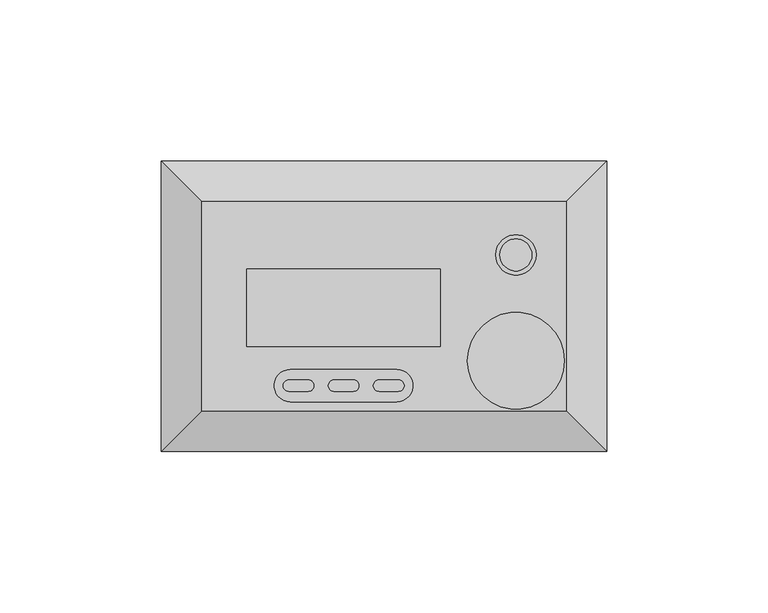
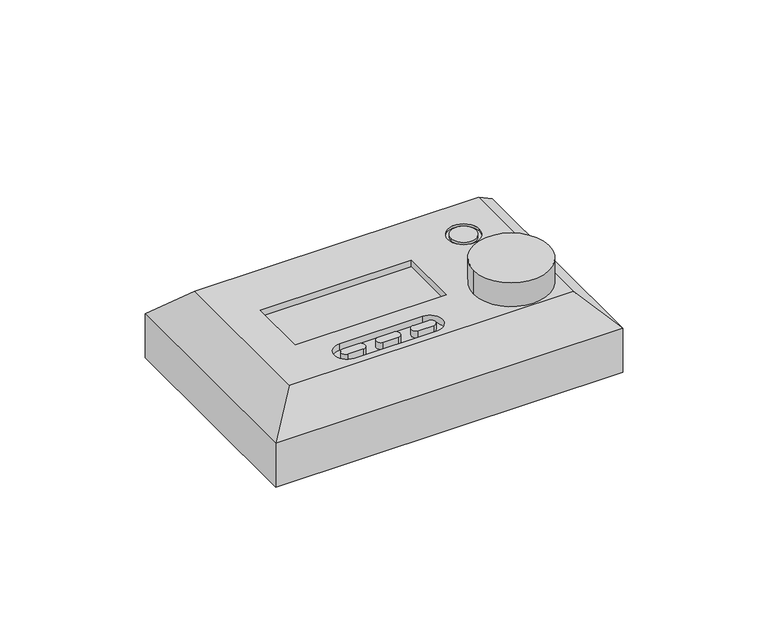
"""IFC4 building model written with IfcOpenShell, lengths in millimetres: proxy geometry, 400_5-_KOMF_optimizer_bediening : Optimizer bediening."""

import ifcopenshell
import ifcopenshell.guid

model = None  # the IFC model being written
_history = None  # IfcOwnerHistory: only IFC2X3 demands one
_inside = {}  # id of a spatial element -> (the spatial element, [elements in it])
_under = {}  # id of a project, library or spatial element -> (it, [spatial elements below it])
_declared = {}  # id of a project -> (the project, [libraries it declares])
_typed = {}  # id of a type object -> (the type object, [elements of that type])
_made_of = {}  # id of a material, layer set ... -> (it, [elements and type objects made of it])


def new_model(schema):
    """Start an empty IFC model of exactly this schema.

    Asked for "IFC4X3", IfcOpenShell would pick the latest addendum, in which some entities
    have other attributes; the version numbers below select the first issue.
    IFC2X3 requires an IfcOwnerHistory on every rooted entity: one is made here for all.
    """
    global model, _history
    if schema == "IFC4X3":
        model = ifcopenshell.file(schema_version=(4, 3, 0, 0))
    else:
        model = ifcopenshell.file(schema=schema)
    _inside.clear()
    _under.clear()
    _declared.clear()
    _typed.clear()
    _made_of.clear()
    _history = None
    if model.schema == "IFC2X3":
        org = make("IfcOrganization", Name="unknown")
        user = make(
            "IfcPersonAndOrganization",
            ThePerson=make("IfcPerson", FamilyName="unknown"),
            TheOrganization=org,
        )
        app = make(
            "IfcApplication",
            ApplicationDeveloper=org,
            Version="unknown",
            ApplicationFullName="unknown",
            ApplicationIdentifier="unknown",
        )
        _history = make(
            "IfcOwnerHistory",
            OwningUser=user,
            OwningApplication=app,
            ChangeAction="ADDED",
            CreationDate=0,
        )
    return model


def make(cls, **values):
    """One entity of the class cls with the attributes given. An attribute that is None is left unset."""
    return model.create_entity(
        cls, **{name: value for name, value in values.items() if value is not None}
    )


def rooted(cls, **values):
    """An entity with a GlobalId (a new one), such as an element, a storey or a relation."""
    return make(cls, GlobalId=ifcopenshell.guid.new(), OwnerHistory=_history, **values)


def si_unit(unit_type, name, prefix=None):
    """IfcSIUnit, for example si_unit("LENGTHUNIT", "METRE", prefix="MILLI")."""
    return make("IfcSIUnit", UnitType=unit_type, Prefix=prefix, Name=name)


def assignment(units):
    """IfcUnitAssignment: the units of a project."""
    return None if units is None else make("IfcUnitAssignment", Units=units)


def point(xyz):
    """IfcCartesianPoint."""
    return None if xyz is None else make("IfcCartesianPoint", Coordinates=xyz)


def direction(xyz):
    """IfcDirection."""
    return None if xyz is None else make("IfcDirection", DirectionRatios=xyz)


def frame(location, z_axis=None, x_axis=None):
    """IfcAxis2Placement3D, a coordinate frame: its origin and axes. An axis left out is left unset."""
    return make(
        "IfcAxis2Placement3D",
        Location=point(location),
        Axis=direction(z_axis),
        RefDirection=direction(x_axis),
    )


def frame_2d(location, x_axis=None):
    """IfcAxis2Placement2D, a coordinate frame in the plane: its origin and x axis."""
    return make(
        "IfcAxis2Placement2D", Location=point(location), RefDirection=direction(x_axis)
    )


def origin():
    """The frame at (0, 0, 0) with its axes left unset."""
    return frame((0.0, 0.0, 0.0))


def place(relative_to, where):
    """IfcLocalPlacement: puts the frame where relative to a parent placement (None: the world)."""
    return make(
        "IfcLocalPlacement", PlacementRelTo=relative_to, RelativePlacement=where
    )


def context(
    kind, dimensions, precision=None, world=None, true_north=None, identifier=None
):
    """IfcGeometricRepresentationContext, for example the 3D "Model" context."""
    return make(
        "IfcGeometricRepresentationContext",
        ContextIdentifier=identifier,
        ContextType=kind,
        CoordinateSpaceDimension=dimensions,
        Precision=precision,
        WorldCoordinateSystem=world,
        TrueNorth=true_north,
    )


def project(units=None, contexts=None):
    """IfcProject with its units and contexts."""
    return rooted(
        "IfcProject",
        Name="project",
        RepresentationContexts=contexts,
        UnitsInContext=assignment(units),
    )


def spatial(cls, under=None, at=None, **own):
    """A site, building, storey or space (cls), placed at a placement, below another one or the project."""
    s = rooted(cls, ObjectPlacement=at, **own)
    if under is not None:
        _under.setdefault(under.id(), (under, []))[1].append(s)
    return s


def polyline(points):
    """IfcPolyline through the points."""
    return make("IfcPolyline", Points=[point(p) for p in points])


def circle_curve(where, radius):
    """IfcCircle in the frame where."""
    return make("IfcCircle", Position=where, Radius=radius)


def trimmed(basis, trim1, trim2, sense, master):
    """IfcTrimmedCurve: the piece of a basis curve between two trims."""
    return make(
        "IfcTrimmedCurve",
        BasisCurve=basis,
        Trim1=trim1,
        Trim2=trim2,
        SenseAgreement=sense,
        MasterRepresentation=master,
    )


def segment(curve, same_sense, transition):
    """IfcCompositeCurveSegment."""
    return make(
        "IfcCompositeCurveSegment",
        Transition=transition,
        SameSense=same_sense,
        ParentCurve=curve,
    )


def composite_curve(segments, self_intersect=None):
    """IfcCompositeCurve: segments joined end to end."""
    return make("IfcCompositeCurve", Segments=segments, SelfIntersect=self_intersect)


def outline(outer, holes=None, kind="AREA"):
    """IfcArbitraryClosedProfileDef: a profile drawn as a closed curve; with holes, ...WithVoids."""
    if holes is None:
        return make("IfcArbitraryClosedProfileDef", ProfileType=kind, OuterCurve=outer)
    return make(
        "IfcArbitraryProfileDefWithVoids",
        ProfileType=kind,
        OuterCurve=outer,
        InnerCurves=holes,
    )


def extrude(swept, where, along, depth):
    """IfcExtrudedAreaSolid: the profile swept, set in the frame where, extruded along a direction by depth."""
    return make(
        "IfcExtrudedAreaSolid",
        SweptArea=swept,
        Position=where,
        ExtrudedDirection=direction(along),
        Depth=depth,
    )


def shape(context_of_items, identifier, shape_type, items):
    """IfcShapeRepresentation: the items that make up one representation, for example the "Body"."""
    return make(
        "IfcShapeRepresentation",
        ContextOfItems=context_of_items,
        RepresentationIdentifier=identifier,
        RepresentationType=shape_type,
        Items=items,
    )


def source(mapping_origin, context_of_items, identifier, shape_type, items):
    """IfcRepresentationMap: a shape defined once, which mapped items show again and again."""
    return make(
        "IfcRepresentationMap",
        MappingOrigin=mapping_origin,
        MappedRepresentation=shape(context_of_items, identifier, shape_type, items),
    )


def transform(
    local_origin,
    x_axis=None,
    y_axis=None,
    z_axis=None,
    scale=None,
    scale2=None,
    scale3=None,
    uniform=True,
):
    """IfcCartesianTransformationOperator3D, or its non-uniform kind. x_axis, y_axis, z_axis: its Axis1, 2, 3."""
    if uniform:
        return make(
            "IfcCartesianTransformationOperator3D",
            Axis1=direction(x_axis),
            Axis2=direction(y_axis),
            LocalOrigin=point(local_origin),
            Scale=scale,
            Axis3=direction(z_axis),
        )
    return make(
        "IfcCartesianTransformationOperator3DnonUniform",
        Axis1=direction(x_axis),
        Axis2=direction(y_axis),
        LocalOrigin=point(local_origin),
        Scale=scale,
        Axis3=direction(z_axis),
        Scale2=scale2,
        Scale3=scale3,
    )


def mapped(mapping_source, mapping_target):
    """IfcMappedItem: shows the shape of a source again, moved by a transform."""
    return make(
        "IfcMappedItem", MappingSource=mapping_source, MappingTarget=mapping_target
    )


def made_of(thing, what):
    """Note that an element or type object is made of a material, layer set ...; save() writes the relation."""
    if what is not None:
        _made_of.setdefault(what.id(), (what, []))[1].append(thing)
    return thing


def element(
    cls,
    number,
    at=None,
    inside=None,
    cuts=None,
    type_object=None,
    material=None,
    context=None,
    identifier="Body",
    shape_type=None,
    held_by="IfcProductDefinitionShape",
    body=None,
    shapes=None,
    **own,
):
    """One element of the class cls, such as IfcWall. Its Tag is "e" and its number.

    at: its placement. inside: the storey or other place that contains it. cuts: it is an
    opening in that element (IfcRelVoidsElement). A single representation is given by context,
    identifier, shape_type and body (its items); several are given by shapes. held_by: the class
    of the entity that holds the representations. save() writes the other relations.
    """
    e = rooted(cls, Tag="e%d" % number, ObjectPlacement=at, **own)
    if body is not None:
        shapes = [shape(context, identifier, shape_type, body)]
    if shapes is not None:
        e.Representation = make(held_by, Representations=shapes)
    if inside is not None:
        _inside.setdefault(inside.id(), (inside, []))[1].append(e)
    if cuts is not None:
        rooted(
            "IfcRelVoidsElement", RelatingBuildingElement=cuts, RelatedOpeningElement=e
        )
    if type_object is not None:
        _typed.setdefault(type_object.id(), (type_object, []))[1].append(e)
    return made_of(e, material)


def aggregate(whole, parts):
    """IfcRelAggregates: a whole, such as a stair, and the parts it consists of."""
    return rooted("IfcRelAggregates", RelatingObject=whole, RelatedObjects=parts)


def save(model, path):
    """Write the relations noted so far, then the file.

    IfcRelAggregates (storeys below a building ...), IfcRelContainedInSpatialStructure (elements
    in a storey), IfcRelDefinesByType, IfcRelAssociatesMaterial and IfcRelDeclares: one each for
    every whole, place, type object, material and project.
    """
    for whole, parts in _under.values():
        aggregate(whole, parts)
    for where, things in _inside.values():
        rooted(
            "IfcRelContainedInSpatialStructure",
            RelatedElements=things,
            RelatingStructure=where,
        )
    for kind, things in _typed.values():
        rooted("IfcRelDefinesByType", RelatedObjects=things, RelatingType=kind)
    for what, things in _made_of.values():
        rooted("IfcRelAssociatesMaterial", RelatedObjects=things, RelatingMaterial=what)
    for by, libraries in _declared.values():
        rooted("IfcRelDeclares", RelatingContext=by, RelatedDefinitions=libraries)
    model.write(path)


def plane_surface(at):
    """IfcPlane: the flat surface through the origin of the frame at, square to its z axis."""
    return make("IfcPlane", Position=at)


def revolved_surface(curve, axis_point, axis_direction):
    """IfcSurfaceOfRevolution: the curve turned about the line through axis_point along axis_direction."""
    return make(
        "IfcSurfaceOfRevolution",
        SweptCurve=make("IfcArbitraryOpenProfileDef", ProfileType="CURVE", Curve=curve),
        AxisPosition=make("IfcAxis1Placement", Location=point(axis_point), Axis=direction(axis_direction)),
    )


def advanced_brep(points, edges, surfaces, faces):
    """IfcAdvancedBrep: a solid bounded by faces that lie on surfaces and meet in shared edges.

    An edge is (start, end): straight between two places in points (the first is 0);
    or (start, end, curve); or (start, end, curve, False) where it runs against its curve.
    A face is (place in surfaces, loops), or (place, loops, False) where it looks against
    its surface's normal. A loop lists edges by number (the first is 1), with a minus sign
    where the edge is run from its end to its start. The first loop is the outer one.
    """
    corners = [point(p) for p in points]
    vertices = [make("IfcVertexPoint", VertexGeometry=c) for c in corners]
    made = []
    for start, end, *more in edges:
        made.append(
            make(
                "IfcEdgeCurve",
                EdgeStart=vertices[start],
                EdgeEnd=vertices[end],
                EdgeGeometry=more[0] if more else make("IfcPolyline", Points=[corners[start], corners[end]]),
                SameSense=more[1] if len(more) > 1 else True,
            )
        )
    hull = []
    for where, loops, *sense in faces:
        bounds = []
        for j, loop in enumerate(loops):
            ring = [make("IfcOrientedEdge", EdgeElement=made[abs(k) - 1], Orientation=k > 0) for k in loop]
            bounds.append(
                make(
                    "IfcFaceOuterBound" if j == 0 else "IfcFaceBound",
                    Bound=make("IfcEdgeLoop", EdgeList=ring),
                    Orientation=True,
                )
            )
        hull.append(make("IfcAdvancedFace", Bounds=bounds, FaceSurface=surfaces[where], SameSense=sense[0] if sense else True))
    return make("IfcAdvancedBrep", Outer=make("IfcClosedShell", CfsFaces=hull))


def electrical_fixtures_cdb00edd(model_context):
    return source(origin(), model_context, "Body", "SolidModel", [
        extrude(outline(composite_curve([segment(trimmed(circle_curve(frame_2d((109.875, 60.9417982)), 4.95), [point((104.925, 60.9417982))], [point((114.825, 60.9417982))], False, "CARTESIAN"), True, "CONTINUOUS"), segment(trimmed(circle_curve(frame_2d((109.875, 60.9417982)), 4.95), [point((114.825, 60.9417982))], [point((104.925, 60.9417982))], False, "CARTESIAN"), True, "CONTINUOUS")], self_intersect=False)), frame((0.0, 0.0, 30.0), z_axis=(0.0, 0.0, 1.0), x_axis=(1.0, 0.0, 0.0)), (0.0, 0.0, 1.0), 1.0),
        extrude(outline(composite_curve([segment(trimmed(circle_curve(frame_2d((109.875, 28.125)), 15.0), [point((94.875, 28.125))], [point((124.875, 28.125))], False, "CARTESIAN"), True, "CONTINUOUS"), segment(trimmed(circle_curve(frame_2d((109.875, 28.125)), 15.0), [point((124.875, 28.125))], [point((94.875, 28.125))], False, "CARTESIAN"), True, "CONTINUOUS")], self_intersect=False)), frame((0.0, 0.0, 31.0), z_axis=(0.0, 0.0, 1.0), x_axis=(1.0, 0.0, 0.0)), (0.0, 0.0, 1.0), 10.0),
        extrude(outline(polyline([(86.5, 56.5), (86.5, 32.5), (26.5, 32.5), (26.5, 56.5), (86.5, 56.5)])), frame((0.0, 0.0, 24.701186), z_axis=(0.0, 0.0, 1.0), x_axis=(1.0, 0.0, 0.0)), (0.0, 0.0, 1.0), 3.465557),
        extrude(outline(composite_curve([segment(polyline([(73.4803008, 18.6503733), (67.4803008, 18.6503733)]), True, "CONTINUOUS"), segment(trimmed(circle_curve(frame_2d((67.4803008, 20.4003733)), 1.75), [point((67.4803008, 18.6503733))], [point((67.4803008, 22.1503733))], False, "CARTESIAN"), True, "CONTINUOUS"), segment(polyline([(67.4803008, 22.1503733), (73.4803008, 22.1503733)]), True, "CONTINUOUS"), segment(trimmed(circle_curve(frame_2d((73.4803008, 20.4003733)), 1.75), [point((73.4803008, 22.1503733))], [point((73.4803008, 18.6503733))], False, "CARTESIAN"), True, "CONTINUOUS")], self_intersect=False)), frame((0.0, 0.0, 28.166743), z_axis=(0.0, 0.0, 1.0), x_axis=(1.0, 0.0, 0.0)), (0.0, 0.0, 1.0), 2.833257),
        extrude(outline(composite_curve([segment(trimmed(circle_curve(frame_2d((39.5196992, 20.4003733)), 1.75), [point((39.5196992, 18.6503733))], [point((39.5196992, 22.1503733))], False, "CARTESIAN"), True, "CONTINUOUS"), segment(polyline([(39.5196992, 22.1503733), (45.5196992, 22.1503733)]), True, "CONTINUOUS"), segment(trimmed(circle_curve(frame_2d((45.5196992, 20.4003733)), 1.75), [point((45.5196992, 22.1503733))], [point((45.5196992, 18.6503733))], False, "CARTESIAN"), True, "CONTINUOUS"), segment(polyline([(45.5196992, 18.6503733), (39.5196992, 18.6503733)]), True, "CONTINUOUS")], self_intersect=False)), frame((0.0, 0.0, 28.166743), z_axis=(0.0, 0.0, 1.0), x_axis=(1.0, 0.0, 0.0)), (0.0, 0.0, 1.0), 2.833257),
        extrude(outline(composite_curve([segment(trimmed(circle_curve(frame_2d((53.5, 20.4003733)), 1.75), [point((53.5, 18.6503733))], [point((53.5, 22.1503733))], False, "CARTESIAN"), True, "CONTINUOUS"), segment(polyline([(53.5, 22.1503733), (59.5, 22.1503733)]), True, "CONTINUOUS"), segment(trimmed(circle_curve(frame_2d((59.5, 20.4003733)), 1.75), [point((59.5, 22.1503733))], [point((59.5, 18.6503733))], False, "CARTESIAN"), True, "CONTINUOUS"), segment(polyline([(59.5, 18.6503733), (53.5, 18.6503733)]), True, "CONTINUOUS")], self_intersect=False)), frame((0.0, 0.0, 28.166743), z_axis=(0.0, 0.0, 1.0), x_axis=(1.0, 0.0, 0.0)), (0.0, 0.0, 1.0), 2.833257),
        advanced_brep(
        [(138.0, 0.0, 0.0), (138.0, 90.0, 0.0), (138.0, 90.0, 18.5), (138.0, 0.0, 18.5), (0.0, 90.0, 0.0), (0.0, 0.0, 0.0), (0.0, 0.0, 18.5), (0.0, 90.0, 18.5), (12.5, 77.5, 31.0), (12.5, 12.5, 31.0), (125.5, 12.5, 31.0), (125.5, 77.5, 31.0), (73.0, 15.4003733, 31.0), (40.0, 15.4003733, 31.0), (40.0, 25.4003733, 31.0), (73.0, 25.4003733, 31.0), (86.5, 56.5, 31.0), (86.5, 32.5, 31.0), (26.5, 32.5, 31.0), (26.5, 56.5, 31.0), (116.125, 60.9417982, 31.0), (103.625, 60.9417982, 31.0), (86.5, 32.5, 24.701186), (86.5, 56.5, 24.701186), (26.5, 56.5, 24.701186), (26.5, 32.5, 24.701186), (40.0, 15.4003733, 28.166743), (73.0, 15.4003733, 28.166743), (73.0, 25.4003733, 28.166743), (40.0, 25.4003733, 28.166743), (103.625, 60.9417982, 30.0), (116.125, 60.9417982, 30.0)],
        [
            (0, 1),
            (1, 2),
            (2, 3),
            (3, 0),
            (4, 5),
            (5, 6),
            (6, 7),
            (7, 4),
            (5, 0),
            (3, 6),
            (4, 1),
            (7, 2),
            (8, 9),
            (9, 10),
            (10, 11),
            (11, 8),
            (12, 13),
            (13, 14, circle_curve(frame((40.0, 20.4003733, 31.0), z_axis=(0.0, 0.0, -1.0), x_axis=(1.0, 0.0, 0.0)), 5.0)),
            (14, 15),
            (15, 12, circle_curve(frame((73.0, 20.4003733, 31.0), z_axis=(0.0, 0.0, -1.0), x_axis=(1.0, 0.0, 0.0)), 5.0)),
            (16, 17),
            (17, 18),
            (18, 19),
            (19, 16),
            (20, 21, circle_curve(frame((109.875, 60.9417982, 31.0), z_axis=(0.0, 0.0, -1.0), x_axis=(1.0, 0.0, 0.0)), 6.25)),
            (21, 20, circle_curve(frame((109.875, 60.9417982, 31.0), z_axis=(0.0, 0.0, -1.0), x_axis=(1.0, 0.0, 0.0)), 6.25)),
            (6, 9),
            (8, 7),
            (3, 10),
            (2, 11),
            (22, 23),
            (23, 24),
            (24, 25),
            (25, 22),
            (22, 17),
            (16, 23),
            (19, 24),
            (18, 25),
            (26, 27),
            (27, 28, circle_curve(frame((73.0, 20.4003733, 28.166743), z_axis=(0.0, 0.0, 1.0), x_axis=(1.0, 0.0, 0.0)), 5.0)),
            (28, 29),
            (29, 26, circle_curve(frame((40.0, 20.4003733, 28.166743), z_axis=(0.0, 0.0, 1.0), x_axis=(1.0, 0.0, 0.0)), 5.0)),
            (26, 13),
            (12, 27),
            (15, 28),
            (14, 29),
            (30, 31, circle_curve(frame((109.875, 60.9417982, 30.0), z_axis=(0.0, 0.0, 1.0), x_axis=(1.0, 0.0, 0.0)), 6.25)),
            (31, 30, circle_curve(frame((109.875, 60.9417982, 30.0), z_axis=(0.0, 0.0, 1.0), x_axis=(1.0, 0.0, 0.0)), 6.25)),
            (30, 21),
            (20, 31),
        ],
        [
            plane_surface(frame((138.0, 0.0, -15.0), z_axis=(1.0, 0.0, 0.0), x_axis=(0.0, 0.0, -1.0))),
            plane_surface(frame((0.0, 0.0, -15.0), z_axis=(-1.0, 0.0, 0.0), x_axis=(0.0, 0.0, 1.0))),
            plane_surface(frame((138.0, 0.0, 31.0), z_axis=(0.0, -1.0, 0.0), x_axis=(-1.0, 0.0, 0.0))),
            plane_surface(frame((138.0, 0.0, 0.0), z_axis=(0.0, 0.0, -1.0), x_axis=(-1.0, 0.0, 0.0))),
            plane_surface(frame((138.0, 90.0, 0.0), z_axis=(0.0, 1.0, 0.0), x_axis=(-1.0, 0.0, 0.0))),
            plane_surface(frame((138.0, 90.0, 31.0), z_axis=(0.0, 0.0, 1.0), x_axis=(-1.0, 0.0, 0.0))),
            plane_surface(frame((12.5, 77.5, 31.0), z_axis=(-0.7071067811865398, 0.0, 0.7071067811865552), x_axis=(0.0, -1.0, 0.0))),
            plane_surface(frame((12.5, 12.5, 31.0), z_axis=(0.0, -0.7071067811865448, 0.7071067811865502), x_axis=(1.0, 0.0, 0.0))),
            plane_surface(frame((125.5, 12.5, 31.0), z_axis=(0.7071067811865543, 0.0, 0.7071067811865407), x_axis=(0.0, 1.0, 0.0))),
            plane_surface(frame((125.5, 77.5, 31.0), z_axis=(0.0, 0.7071067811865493, 0.7071067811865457), x_axis=(-1.0, 0.0, 0.0))),
            plane_surface(frame((86.5, 38.8970196, 24.701186), z_axis=(0.0, 0.0, 1.0), x_axis=(0.0, -1.0, 0.0))),
            plane_surface(frame((86.5, 32.5, 31.0), z_axis=(-1.0, 0.0, 0.0), x_axis=(0.0, 0.0, -1.0))),
            plane_surface(frame((86.5, 56.5, 31.0), z_axis=(0.0, -1.0, 0.0), x_axis=(0.0, 0.0, -1.0))),
            plane_surface(frame((26.5, 56.5, 31.0), z_axis=(1.0, 0.0, 0.0), x_axis=(0.0, 0.0, -1.0))),
            plane_surface(frame((26.5, 32.5, 31.0), z_axis=(0.0, 1.0, 0.0), x_axis=(0.0, 0.0, -1.0))),
            plane_surface(frame((73.0, 15.4003733, 28.166743), z_axis=(0.0, 0.0, 1.0), x_axis=(-1.0, 0.0, 0.0))),
            plane_surface(frame((40.0, 15.4003733, 31.0), z_axis=(0.0, 1.0, 0.0), x_axis=(0.0, 0.0, -1.0))),
            revolved_surface(polyline([(78.0, 20.4003733, 31.0), (78.0, 20.4003733, 28.166743)]), (73.0, 20.4003733, 28.166743), (0.0, 0.0, 1.0)),
            plane_surface(frame((73.0, 25.4003733, 31.0), z_axis=(0.0, -1.0, 0.0), x_axis=(0.0, 0.0, -1.0))),
            revolved_surface(polyline([(45.0, 20.4003733, 31.0), (45.0, 20.4003733, 28.166743)]), (40.0, 20.4003733, 28.166743), (0.0, 0.0, 1.0)),
            plane_surface(frame((116.125, 60.9417982, 30.0), z_axis=(0.0, 0.0, 1.0), x_axis=(0.0, -1.0, 0.0))),
            revolved_surface(polyline([(116.125, 60.9417982, 31.0), (116.125, 60.9417982, 30.0)]), (109.875, 60.9417982, 30.0), (0.0, 0.0, 1.0)),
        ],
        [
            (0, [[1, 2, 3, 4]]),
            (1, [[5, 6, 7, 8]]),
            (2, [[9, -4, 10, -6]]),
            (3, [[-1, -9, -5, 11]]),
            (4, [[-11, -8, 12, -2]]),
            (5, [[13, 14, 15, 16], [17, 18, 19, 20], [21, 22, 23, 24], [25, 26]]),
            (6, [[27, -13, 28, -7]]),
            (7, [[-27, -10, 29, -14]]),
            (8, [[-29, -3, 30, -15]]),
            (9, [[-28, -16, -30, -12]]),
            (10, [[31, 32, 33, 34]]),
            (11, [[-31, 35, -21, 36]]),
            (12, [[-32, -36, -24, 37]]),
            (13, [[-33, -37, -23, 38]]),
            (14, [[-34, -38, -22, -35]]),
            (15, [[39, 40, 41, 42]]),
            (16, [[-39, 43, -17, 44]]),
            (17, [[-40, -44, -20, 45]]),
            (18, [[-41, -45, -19, 46]]),
            (19, [[-42, -46, -18, -43]]),
            (20, [[47, 48]]),
            (21, [[-47, 49, -25, 50]]),
            (21, [[-48, -50, -26, -49]]),
        ],
    ),
    ])


if __name__ == "__main__":
    model = new_model("IFC4")
    model_context = context("Model", 3, world=origin())
    ifc_project = project(units=[si_unit("LENGTHUNIT", "METRE", prefix="MILLI")], contexts=[model_context])
    site = spatial("IfcSite", under=ifc_project)
    building = spatial("IfcBuilding", under=site)
    placement = place(None, origin())
    electrical_fixtures_shape = electrical_fixtures_cdb00edd(model_context)
    element("IfcBuildingElementProxy", 1, Name="400_5-_KOMF_optimizer_bediening : Optimizer bediening", ObjectType="400_5-_KOMF_optimizer_bediening : Optimizer bediening", at=placement, inside=building, context=model_context, shape_type="MappedRepresentation", body=[
        mapped(electrical_fixtures_shape, transform((0.0, 0.0, 0.0), x_axis=(1.0, 0.0, 0.0), y_axis=(0.0, 1.0, 0.0), z_axis=(0.0, 0.0, 1.0))),
    ])
    save(model, "model.ifc")
